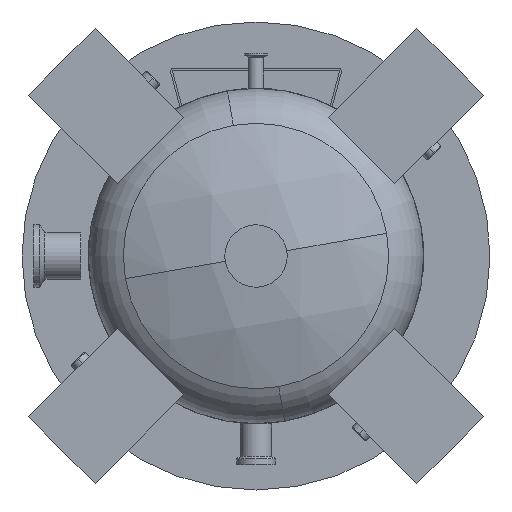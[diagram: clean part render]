
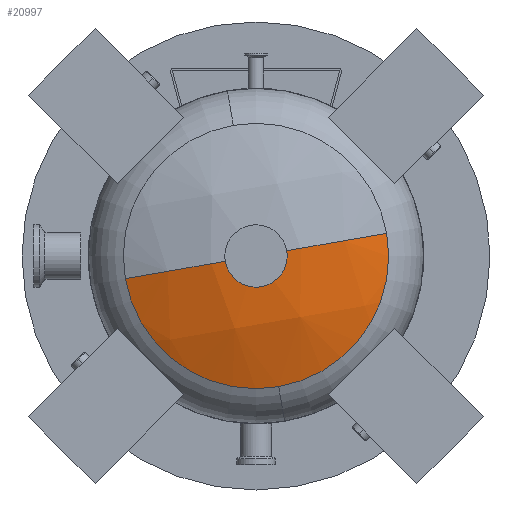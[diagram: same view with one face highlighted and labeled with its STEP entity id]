
A CAD part, front view. The second image highlights one B-rep face of the part: STEP entity #20997.
In plain terms, the highlighted spherical face has radius 273.05 mm.
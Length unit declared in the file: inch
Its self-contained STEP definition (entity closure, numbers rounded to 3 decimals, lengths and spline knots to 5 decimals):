
#1194 = VERTEX_POINT ( 'NONE', #11380 ) ;
#3883 = CARTESIAN_POINT ( 'NONE',  ( -4.19011, -21.21811, -0.72603 ) ) ;
#4505 = CARTESIAN_POINT ( 'NONE',  ( 0., -21.21811, 0. ) ) ;
#5576 = ORIENTED_EDGE ( 'NONE', *, *, #15463, .F. ) ;
#8750 = DIRECTION ( 'NONE',  ( 0.171, 0., -0.985 ) ) ;
#11380 = CARTESIAN_POINT ( 'NONE',  ( 0.72603, -21.21811, -4.19011 ) ) ;
#11444 = CIRCLE ( 'NONE', #20417, 4.25254 ) ;
#12715 = CARTESIAN_POINT ( 'NONE',  ( 0., -11.345, 0. ) ) ;
#13494 = ORIENTED_EDGE ( 'NONE', *, *, #30753, .T. ) ;
#13691 = AXIS2_PLACEMENT_3D ( 'NONE', #12715, #23413, #34117 ) ;
#15197 = DIRECTION ( 'NONE',  ( 0., -1., 0. ) ) ;
#15463 = EDGE_CURVE ( 'NONE', #26833, #23766, #17618, .T. ) ;
#16017 = CARTESIAN_POINT ( 'NONE',  ( 0., -11.345, 0. ) ) ;
#16281 = ORIENTED_EDGE ( 'NONE', *, *, #17584, .T. ) ;
#16667 = VERTEX_POINT ( 'NONE', #21726 ) ;
#17584 = EDGE_CURVE ( 'NONE', #1194, #16667, #19440, .T. ) ;
#17606 = ORIENTED_EDGE ( 'NONE', *, *, #19980, .T. ) ;
#17618 = CIRCLE ( 'NONE', #13691, 10.75 ) ;
#17994 = DIRECTION ( 'NONE',  ( 0.171, 0., -0.985 ) ) ;
#18644 = DIRECTION ( 'NONE',  ( -0.985, 0., -0.171 ) ) ;
#19440 = CIRCLE ( 'NONE', #20526, 4.25254 ) ;
#19980 = EDGE_CURVE ( 'NONE', #16667, #23766, #23976, .T. ) ;
#20417 = AXIS2_PLACEMENT_3D ( 'NONE', #4505, #15197, #17994 ) ;
#20526 = AXIS2_PLACEMENT_3D ( 'NONE', #28623, #25998, #33896 ) ;
#20591 = EDGE_LOOP ( 'NONE', ( #13494, #16281, #17606, #5576 ) ) ;
#20997 = ADVANCED_FACE ( 'NONE', ( #32970 ), #27687, .T. ) ;
#21267 = DIRECTION ( 'NONE',  ( 0.171, 0., -0.985 ) ) ;
#21726 = CARTESIAN_POINT ( 'NONE',  ( 4.19011, -21.21811, 0.72603 ) ) ;
#22255 = DIRECTION ( 'NONE',  ( -0.985, 0., -0.171 ) ) ;
#22860 = AXIS2_PLACEMENT_3D ( 'NONE', #16017, #21267, #18644 ) ;
#23413 = DIRECTION ( 'NONE',  ( -0.171, 0., 0.985 ) ) ;
#23443 = CARTESIAN_POINT ( 'NONE',  ( 0., -22.095, 0. ) ) ;
#23766 = VERTEX_POINT ( 'NONE', #23443 ) ;
#23976 = CIRCLE ( 'NONE', #22860, 10.75 ) ;
#25998 = DIRECTION ( 'NONE',  ( 0., -1., 0. ) ) ;
#26833 = VERTEX_POINT ( 'NONE', #3883 ) ;
#27687 = SPHERICAL_SURFACE ( 'NONE', #30390, 10.75 ) ;
#28623 = CARTESIAN_POINT ( 'NONE',  ( 0., -21.21811, 0. ) ) ;
#30390 = AXIS2_PLACEMENT_3D ( 'NONE', #32788, #8750, #22255 ) ;
#30753 = EDGE_CURVE ( 'NONE', #26833, #1194, #11444, .T. ) ;
#32788 = CARTESIAN_POINT ( 'NONE',  ( 0., -11.345, 0. ) ) ;
#32970 = FACE_OUTER_BOUND ( 'NONE', #20591, .T. ) ;
#33896 = DIRECTION ( 'NONE',  ( 0.171, 0., -0.985 ) ) ;
#34117 = DIRECTION ( 'NONE',  ( 0.985, 0., 0.171 ) ) ;
